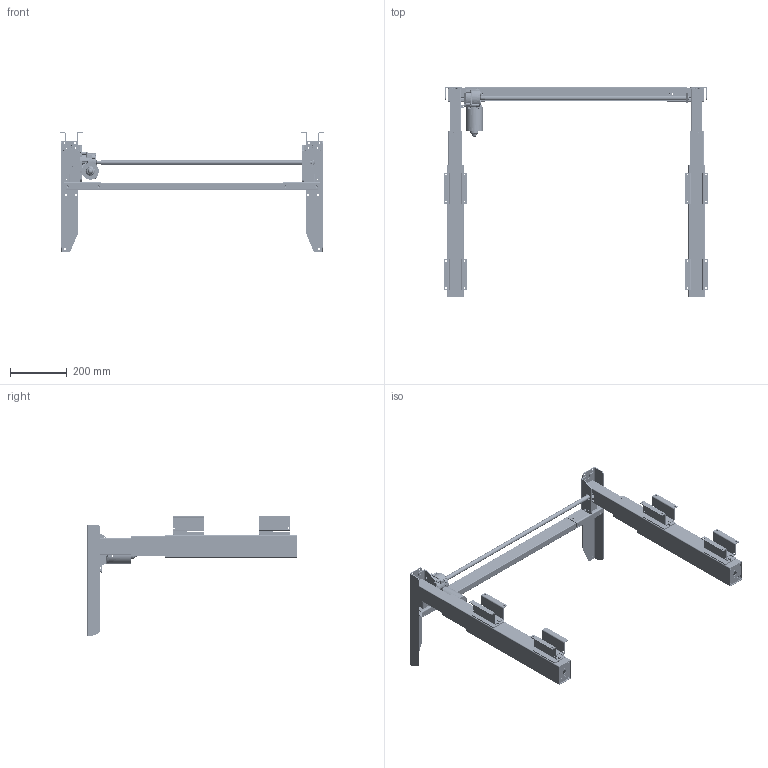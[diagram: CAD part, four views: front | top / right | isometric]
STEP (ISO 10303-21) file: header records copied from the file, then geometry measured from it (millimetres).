
FILE_DESCRIPTION (( 'STEP AP214' ), '1' );
FILE_NAME ('Tech-draw_501-39_XX092.STEP', '2024-09-11T10:49:12', ( '' ), ( '' ), 'SwSTEP 2.0', 'SolidWorks 2023', '' );
FILE_SCHEMA (( 'AUTOMOTIVE_DESIGN' ));
Length unit declared in the file: millimetre
Products named in the file (106): 341330; 127360; 142920_Shell view; 346910; 141330_DOWN; 305710; 160630; 346210_White; 144260_92; 141320_DOWN; 342310_silver; 347910_92; 311580; 321190; 160590_Shell view; 340980; 142850_shell view; 315360_Ingen kontaktarm; 336230.; 347920_92; 328870; 134750; 341060; 320130; 333190; 160580; 347080_silver; 346330_White; 341800; 160610_white1; 341000_lower; 321180; 356130; 361570; 346840; 345000; 345930; 343000; 333420; 160600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
Assembly tree (306 placements, depth 7):
  Tech-draw_501-39_XX092
    347910_92
    144260_92
      347920_92
      340560
      341220
    161150_Shell view
      361530
      361570  x2
      160630  x2
        361550
        361560
      160590_Shell view
        342310  x8
        341800  x10
        341800_silver  x6
        346910
        356120
        160560
          361520
          356850
        160580
          356130
          346640
          346330_White
          346200  x2
          346190_White
          345000
        142910_shell view
          346140
          600470
          320130
          142920_Shell view
            142800_rubber direction a
              321180
              321140.
            321190
            321840
            335380
            134750
              336230.
              340430
            321260  x2
            135010
              339870
            346890
            335900_Assembly  x3
            341330
          321150
          301890
          315360_Ingen kontaktarm
          325430
          311580  x3
          333420  x2
          321840
          142850_shell view
            346830
            346840
          346790  x2
          346800
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Bounding box: 933.9 x 742.65 x 426.4 mm (x, y, z)
Volume: 2513769.9 mm3; surface area: 2587213.5 mm2
Topology: 288 solids, 288 shells, 13237 faces, 34662 edges, 22759 vertices
Faces by surface type: plane 6443, cylinder 4726, bspline 1321, cone 388, torus 316, sphere 43
Full cylindrical faces by diameter (mm): 1.2 x2, 1.5 x1, 1.8 x1, 1.9 x3, 2 x12, 2.2 x1, 2.3 x1, 2.4 x489, 2.5 x4, 2.9 x2, 3 x41, 3.1 x2, 3.2 x2, 3.3 x10, 3.5 x2, 3.6 x1, 4 x28, 4.1 x1, 4.2 x6, 4.3 x1, 4.5 x6, 4.6 x4, 4.95 x122, 4.98 x1, 5 x55, 5.05 x4, 5.2 x1, 5.5 x18, 5.6 x2, 5.7 x1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
Entity records: 316096 total; most frequent: CARTESIAN_POINT 137229, ORIENTED_EDGE 39234, DIRECTION 31821, EDGE_CURVE 19617, VERTEX_POINT 12995, AXIS2_PLACEMENT_3D 11285, LINE 9251, VECTOR 9251
